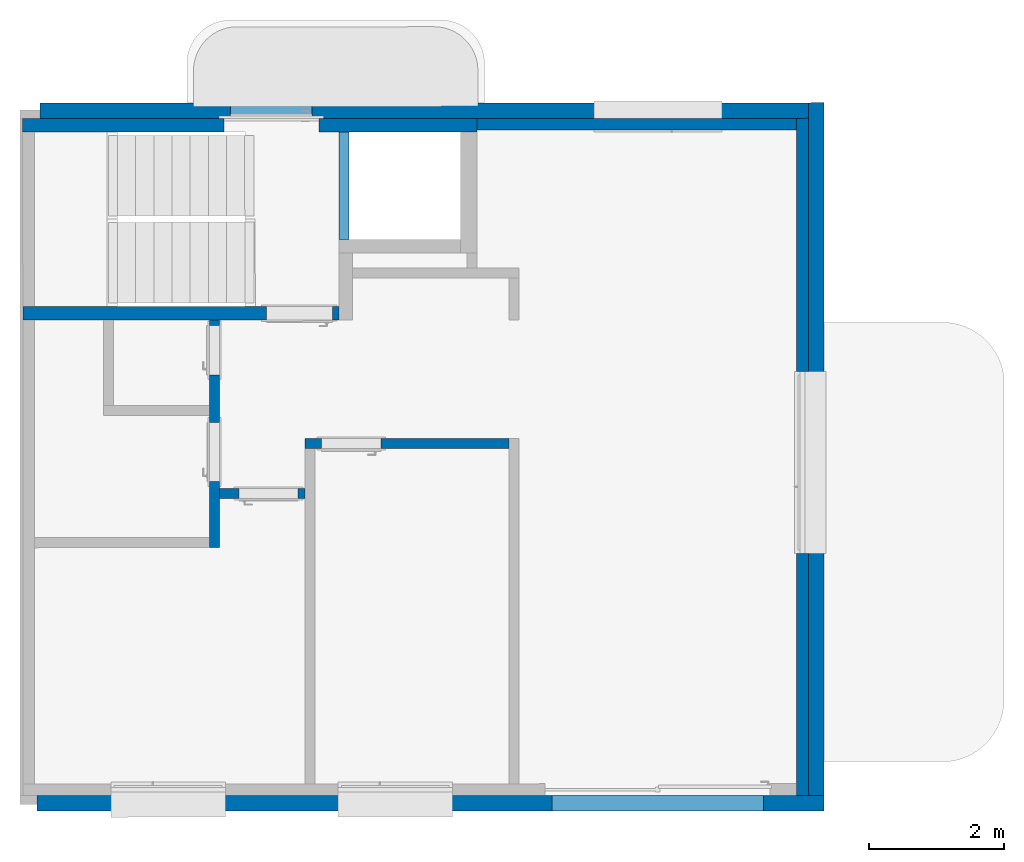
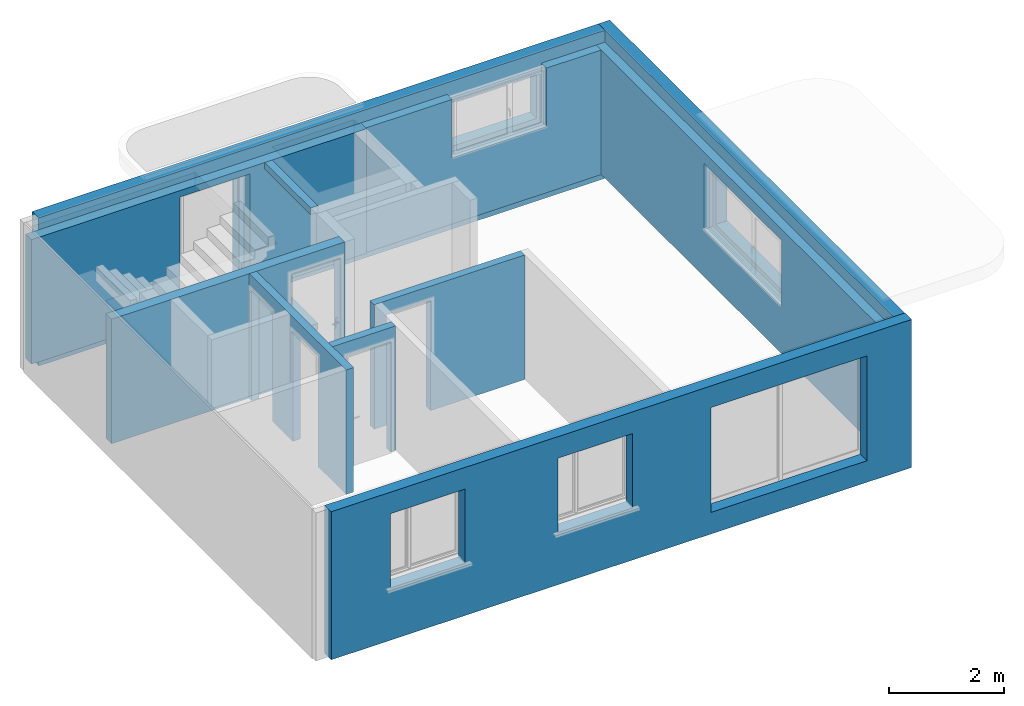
# One storey, part 2 of 9: 11 walls, 15 openings.
"""IFC2X3 building model written with IfcOpenShell, lengths in metres."""

import ifcopenshell
import ifcopenshell.guid

model = None  # the IFC model being written
_history = None  # IfcOwnerHistory: only IFC2X3 demands one
_inside = {}  # id of a spatial element -> (the spatial element, [elements in it])
_under = {}  # id of a project, library or spatial element -> (it, [spatial elements below it])
_declared = {}  # id of a project -> (the project, [libraries it declares])
_typed = {}  # id of a type object -> (the type object, [elements of that type])
_made_of = {}  # id of a material, layer set ... -> (it, [elements and type objects made of it])


def new_model(schema):
    """Start an empty IFC model of exactly this schema.

    Asked for "IFC4X3", IfcOpenShell would pick the latest addendum, in which some entities
    have other attributes; the version numbers below select the first issue.
    IFC2X3 requires an IfcOwnerHistory on every rooted entity: one is made here for all.
    """
    global model, _history
    if schema == "IFC4X3":
        model = ifcopenshell.file(schema_version=(4, 3, 0, 0))
    else:
        model = ifcopenshell.file(schema=schema)
    _inside.clear()
    _under.clear()
    _declared.clear()
    _typed.clear()
    _made_of.clear()
    _history = None
    if model.schema == "IFC2X3":
        org = make("IfcOrganization", Name="unknown")
        user = make(
            "IfcPersonAndOrganization",
            ThePerson=make("IfcPerson", FamilyName="unknown"),
            TheOrganization=org,
        )
        app = make(
            "IfcApplication",
            ApplicationDeveloper=org,
            Version="unknown",
            ApplicationFullName="unknown",
            ApplicationIdentifier="unknown",
        )
        _history = make(
            "IfcOwnerHistory",
            OwningUser=user,
            OwningApplication=app,
            ChangeAction="ADDED",
            CreationDate=0,
        )
    return model


def make(cls, **values):
    """One entity of the class cls with the attributes given. An attribute that is None is left unset."""
    return model.create_entity(
        cls, **{name: value for name, value in values.items() if value is not None}
    )


def entity(cls, *values):
    """Any entity or typed value of the class cls, its attributes in the order of the schema. None: left unset."""
    e = model.create_entity(cls)
    for i, value in enumerate(values):
        if value is not None:
            e[i] = value
    return e


def rooted(cls, **values):
    """An entity with a GlobalId (a new one), such as an element, a storey or a relation."""
    return make(cls, GlobalId=ifcopenshell.guid.new(), OwnerHistory=_history, **values)


def si_unit(unit_type, name, prefix=None):
    """IfcSIUnit, for example si_unit("LENGTHUNIT", "METRE", prefix="MILLI")."""
    return make("IfcSIUnit", UnitType=unit_type, Prefix=prefix, Name=name)


def converted_unit(unit_type, name, factor, base, dimensions=None, offset=None):
    """IfcConversionBasedUnit, such as the inch: factor (a typed value) times the base unit."""
    return make(
        "IfcConversionBasedUnit"
        if offset is None
        else "IfcConversionBasedUnitWithOffset",
        ConversionOffset=offset,
        Dimensions=None
        if dimensions is None
        else entity("IfcDimensionalExponents", *dimensions),
        UnitType=unit_type,
        Name=name,
        ConversionFactor=make(
            "IfcMeasureWithUnit", ValueComponent=factor, UnitComponent=base
        ),
    )


def derived_unit(unit_type, elements):
    """IfcDerivedUnit: a product of units, each with its exponent."""
    return make(
        "IfcDerivedUnit",
        Elements=[
            make("IfcDerivedUnitElement", Unit=unit, Exponent=power)
            for unit, power in elements
        ],
        UnitType=unit_type,
    )


def assignment(units):
    """IfcUnitAssignment: the units of a project."""
    return None if units is None else make("IfcUnitAssignment", Units=units)


def point(xyz):
    """IfcCartesianPoint."""
    return None if xyz is None else make("IfcCartesianPoint", Coordinates=xyz)


def direction(xyz):
    """IfcDirection."""
    return None if xyz is None else make("IfcDirection", DirectionRatios=xyz)


def frame(location, z_axis=None, x_axis=None):
    """IfcAxis2Placement3D, a coordinate frame: its origin and axes. An axis left out is left unset."""
    return make(
        "IfcAxis2Placement3D",
        Location=point(location),
        Axis=direction(z_axis),
        RefDirection=direction(x_axis),
    )


def origin():
    """The frame at (0, 0, 0) with its axes left unset."""
    return frame((0.0, 0.0, 0.0))


def place(relative_to, where):
    """IfcLocalPlacement: puts the frame where relative to a parent placement (None: the world)."""
    return make(
        "IfcLocalPlacement", PlacementRelTo=relative_to, RelativePlacement=where
    )


def context(
    kind, dimensions, precision=None, world=None, true_north=None, identifier=None
):
    """IfcGeometricRepresentationContext, for example the 3D "Model" context."""
    return make(
        "IfcGeometricRepresentationContext",
        ContextIdentifier=identifier,
        ContextType=kind,
        CoordinateSpaceDimension=dimensions,
        Precision=precision,
        WorldCoordinateSystem=world,
        TrueNorth=true_north,
    )


def subcontext(parent, identifier, kind, view, scale=None):
    """IfcGeometricRepresentationSubContext, for example "Body" below "Model"."""
    return make(
        "IfcGeometricRepresentationSubContext",
        ContextIdentifier=identifier,
        ContextType=kind,
        ParentContext=parent,
        TargetScale=scale,
        TargetView=view,
    )


def project(units=None, contexts=None):
    """IfcProject with its units and contexts."""
    return rooted(
        "IfcProject",
        Name="project",
        RepresentationContexts=contexts,
        UnitsInContext=assignment(units),
    )


def spatial(cls, under=None, at=None, **own):
    """A site, building, storey or space (cls), placed at a placement, below another one or the project."""
    s = rooted(cls, ObjectPlacement=at, **own)
    if under is not None:
        _under.setdefault(under.id(), (under, []))[1].append(s)
    return s


def faces_of(points, faces, orient=None, outer=None):
    """IfcFace entities. A face is a list of loops; a loop is a list of indices into points, from 0.

    orient and outer hold one flag for each loop. By default every Orientation is true, the
    first loop of a face is its IfcFaceOuterBound and the others are IfcFaceBound.
    """
    made = []
    for i, loops in enumerate(faces):
        bounds = []
        for j, loop in enumerate(loops):
            is_outer = j == 0 if outer is None else outer[i][j]
            bounds.append(
                make(
                    "IfcFaceOuterBound" if is_outer else "IfcFaceBound",
                    Bound=make("IfcPolyLoop", Polygon=[points[k] for k in loop]),
                    Orientation=True if orient is None else orient[i][j],
                )
            )
        made.append(make("IfcFace", Bounds=bounds))
    return made


def faceted_brep(points, faces, orient=None, outer=None, voids=None):
    """IfcFacetedBrep: a solid bounded by flat faces; with voids (closed shells), ...WithVoids."""
    shared = [point(p) for p in points]
    hull = make("IfcClosedShell", CfsFaces=faces_of(shared, faces, orient, outer))
    if voids is None:
        return make("IfcFacetedBrep", Outer=hull)
    return make(
        "IfcFacetedBrepWithVoids",
        Outer=hull,
        Voids=[
            make(cls, CfsFaces=faces_of(shared, fs, o, b)) for cls, fs, o, b in voids
        ],
    )


def shape(context_of_items, identifier, shape_type, items):
    """IfcShapeRepresentation: the items that make up one representation, for example the "Body"."""
    return make(
        "IfcShapeRepresentation",
        ContextOfItems=context_of_items,
        RepresentationIdentifier=identifier,
        RepresentationType=shape_type,
        Items=items,
    )


def material(Name=None, Category=None):
    """IfcMaterial."""
    return make("IfcMaterial", Name=Name, Category=Category)


def made_of(thing, what):
    """Note that an element or type object is made of a material, layer set ...; save() writes the relation."""
    if what is not None:
        _made_of.setdefault(what.id(), (what, []))[1].append(thing)
    return thing


def element(
    cls,
    number,
    at=None,
    inside=None,
    cuts=None,
    type_object=None,
    material=None,
    context=None,
    identifier="Body",
    shape_type=None,
    held_by="IfcProductDefinitionShape",
    body=None,
    shapes=None,
    **own,
):
    """One element of the class cls, such as IfcWall. Its Tag is "e" and its number.

    at: its placement. inside: the storey or other place that contains it. cuts: it is an
    opening in that element (IfcRelVoidsElement). A single representation is given by context,
    identifier, shape_type and body (its items); several are given by shapes. held_by: the class
    of the entity that holds the representations. save() writes the other relations.
    """
    e = rooted(cls, Tag="e%d" % number, ObjectPlacement=at, **own)
    if body is not None:
        shapes = [shape(context, identifier, shape_type, body)]
    if shapes is not None:
        e.Representation = make(held_by, Representations=shapes)
    if inside is not None:
        _inside.setdefault(inside.id(), (inside, []))[1].append(e)
    if cuts is not None:
        rooted(
            "IfcRelVoidsElement", RelatingBuildingElement=cuts, RelatedOpeningElement=e
        )
    if type_object is not None:
        _typed.setdefault(type_object.id(), (type_object, []))[1].append(e)
    return made_of(e, material)


def aggregate(whole, parts):
    """IfcRelAggregates: a whole, such as a stair, and the parts it consists of."""
    return rooted("IfcRelAggregates", RelatingObject=whole, RelatedObjects=parts)


def save(model, path):
    """Write the relations noted so far, then the file.

    IfcRelAggregates (storeys below a building ...), IfcRelContainedInSpatialStructure (elements
    in a storey), IfcRelDefinesByType, IfcRelAssociatesMaterial and IfcRelDeclares: one each for
    every whole, place, type object, material and project.
    """
    for whole, parts in _under.values():
        aggregate(whole, parts)
    for where, things in _inside.values():
        rooted(
            "IfcRelContainedInSpatialStructure",
            RelatedElements=things,
            RelatingStructure=where,
        )
    for kind, things in _typed.values():
        rooted("IfcRelDefinesByType", RelatedObjects=things, RelatingType=kind)
    for what, things in _made_of.values():
        rooted("IfcRelAssociatesMaterial", RelatedObjects=things, RelatingMaterial=what)
    for by, libraries in _declared.values():
        rooted("IfcRelDeclares", RelatingContext=by, RelatedDefinitions=libraries)
    model.write(path)


model = new_model("IFC2X3")

# Units and contexts
model_context = context("Model", 3, precision=1e-05, world=origin(), true_north=direction((0.772621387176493, -0.634867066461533)))
body_context = subcontext(model_context, "Body", "Model", "MODEL_VIEW")
ifc_project = project(units=[si_unit("LENGTHUNIT", "METRE"), si_unit("AREAUNIT", "SQUARE_METRE"), si_unit("VOLUMEUNIT", "CUBIC_METRE"), si_unit("MASSUNIT", "GRAM", prefix="KILO"), converted_unit("PLANEANGLEUNIT", "DEGREE", entity("IfcPlaneAngleMeasure", 0.0174532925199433), si_unit("PLANEANGLEUNIT", "RADIAN"), dimensions=[0, 0, 0, 0, 0, 0, 0]), derived_unit("THERMALTRANSMITTANCEUNIT", [(si_unit("POWERUNIT", "WATT"), 1), (si_unit("THERMODYNAMICTEMPERATUREUNIT", "KELVIN"), -1), (si_unit("LENGTHUNIT", "METRE"), -2)]), derived_unit("VOLUMETRICFLOWRATEUNIT", [(si_unit("LENGTHUNIT", "METRE"), 3), (converted_unit("TIMEUNIT", "hour", entity("IfcTimeMeasure", 3600.0), si_unit("TIMEUNIT", "SECOND"), dimensions=[0, 0, 1, 0, 0, 0, 0]), -1), (si_unit("LENGTHUNIT", "METRE"), -1)])], contexts=[model_context])

# Site, building, storey
site_placement = place(None, origin())
site = spatial("IfcSite", under=ifc_project, at=site_placement, Name="Modelle auf dem Nullpunkt", CompositionType="ELEMENT")
building_placement = place(site_placement, origin())
building = spatial("IfcBuilding", under=site, at=building_placement, Name="I", CompositionType="ELEMENT")
storey_placement = place(building_placement, origin())
storey = spatial("IfcBuildingStorey", under=building, at=storey_placement, Name="EG", CompositionType="ELEMENT", Elevation=0.0)

# Wall, opening
ifc_material_1 = material(Name="Béton")
wall_1_placement = place(storey_placement, frame((29.3669477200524, 1.93661409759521, 435.89)))
wall_1 = element("IfcWall", 1, at=wall_1_placement, inside=storey, material=ifc_material_1, Name="Betonwand", context=body_context, shape_type="Brep", body=[
    faceted_brep([(6.74499957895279, 0.202384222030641, 0.0), (6.74507027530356, 0.00238423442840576, 0.0), (6.74507027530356, 0.00238423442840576, 2.65), (6.74499957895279, 0.202384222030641, 2.65), (7.06963507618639e-05, 0.0, 0.0), (7.06963507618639e-05, 0.0, 2.65), (0.0, 0.199999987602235, 0.0), (0.0, 0.199999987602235, 2.65)], [[[0, 1, 2, 3]], [[1, 4, 5, 2]], [[4, 6, 7, 5]], [[6, 0, 3, 7]], [[3, 2, 5, 7]], [[0, 6, 4, 1]]], orient=[[False], [False], [False], [False], [False], [False]]),
])
opening_1_placement = place(wall_1_placement, frame((2.98499981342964, 0.00105514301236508, 0.0)))
element("IfcOpeningElement", 2, at=opening_1_placement, cuts=wall_1, ObjectType="Opening", context=body_context, shape_type="Brep", body=[
    faceted_brep([(1.40999991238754, 0.200498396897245, 0.0), (1.40999991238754, 0.200498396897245, 2.51), (0.0, 0.199999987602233, 2.51), (0.0, 0.199999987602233, 0.0), (1.41007060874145, 0.000498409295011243, 0.0), (7.06963539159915e-05, 0.0, 0.0), (7.06963539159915e-05, 0.0, 2.51), (1.41007060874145, 0.000498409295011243, 2.51)], [[[0, 1, 2, 3]], [[4, 5, 6, 7]], [[3, 5, 4, 0]], [[2, 6, 5, 3]], [[1, 7, 6, 2]], [[0, 4, 7, 1]]], orient=[[False], [False], [False], [False], [False], [False]]),
])

ifc_material_2 = material(Name="Isolation périphérique")
wall_2_placement = place(storey_placement, frame((41.0268656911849, -7.90926369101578, 435.64)))
wall_2 = element("IfcWall", 3, at=wall_2_placement, inside=storey, material=ifc_material_2, context=body_context, shape_type="Brep", body=[
    faceted_brep([(0.233633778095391, 8.13008027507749e-05, 0.0), (0.00363379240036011, 0.0, 0.0), (0.00363379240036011, 0.0, 3.15), (0.233633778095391, 8.13008027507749e-05, 3.15), (0.0, 10.2799993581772, 0.0), (0.0, 10.2799993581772, 3.15), (0.229999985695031, 10.28008065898, 0.0), (0.229999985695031, 10.28008065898, 3.15)], [[[0, 1, 2, 3]], [[1, 4, 5, 2]], [[4, 6, 7, 5]], [[6, 0, 3, 7]], [[3, 2, 5, 7]], [[0, 6, 4, 1]]], orient=[[False], [False], [False], [False], [False], [False]]),
])
opening_2_placement = place(wall_2_placement, frame((0.00144574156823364, 3.6899997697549, 1.36)))
element("IfcOpeningElement", 4, at=opening_2_placement, cuts=wall_2, ObjectType="Opening", context=body_context, shape_type="Brep", body=[
    faceted_brep([(0.230883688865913, 8.13007354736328e-05, 0.0), (0.230883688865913, 8.13007354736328e-05, 1.2), (0.229999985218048, 2.5000811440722, 1.2), (0.229999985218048, 2.5000811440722, 0.0), (0.000883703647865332, 0.0, 0.0), (0.0, 2.49999984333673, 0.0), (0.0, 2.49999984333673, 1.2), (0.000883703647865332, 0.0, 1.2)], [[[0, 1, 2, 3]], [[4, 5, 6, 7]], [[3, 5, 4, 0]], [[2, 6, 5, 3]], [[1, 7, 6, 2]], [[0, 4, 7, 1]]], orient=[[False], [False], [False], [False], [False], [False]]),
])

ifc_material_3 = material(Name="Béton")
wall_3_placement = place(storey_placement, frame((34.0620181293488, 0.338273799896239, 435.89)))
wall_3 = element("IfcWall", 5, at=wall_3_placement, inside=storey, material=ifc_material_3, Name="Betonwand", context=body_context, shape_type="Brep", body=[
    faceted_brep([(0.0, 1.5999998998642, 0.0), (0.1499999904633, 1.60005292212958, 0.0), (0.1499999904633, 1.60005292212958, 2.65), (0.0, 1.5999998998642, 2.65), (0.150565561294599, 5.30222653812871e-05, 0.0), (0.150565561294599, 5.30222653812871e-05, 2.65), (0.000565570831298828, 0.0, 0.0), (0.000565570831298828, 0.0, 2.65)], [[[0, 1, 2, 3]], [[1, 4, 5, 2]], [[4, 6, 7, 5]], [[6, 0, 3, 7]], [[3, 2, 5, 7]], [[0, 6, 4, 1]]], orient=[[False], [False], [False], [False], [False], [False]]),
])
opening_3_placement = place(wall_3_placement, frame((0.0, 0.0, 0.145)))
element("IfcOpeningElement", 6, at=opening_3_placement, cuts=wall_3, ObjectType="Opening", context=body_context, shape_type="Brep", body=[
    faceted_brep([(0.15056556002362, 5.30221462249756e-05, 0.0), (0.15056556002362, 5.30221462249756e-05, 2.365), (0.149999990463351, 1.60005292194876, 2.365), (0.149999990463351, 1.60005292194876, 0.0), (0.000565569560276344, 0.0, 0.0), (0.0, 1.59999989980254, 0.0), (0.0, 1.59999989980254, 2.365), (0.000565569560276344, 0.0, 2.365)], [[[0, 1, 2, 3]], [[4, 5, 6, 7]], [[3, 5, 4, 0]], [[2, 6, 5, 3]], [[1, 7, 6, 2]], [[0, 4, 7, 1]]], orient=[[False], [False], [False], [False], [False], [False]]),
])

ifc_material_4 = material(Name="Béton")
wall_4_placement = place(storey_placement, frame((40.8469470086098, -7.90932731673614, 435.89)))
wall_4 = element("IfcWall", 7, at=wall_4_placement, inside=storey, material=ifc_material_4, Name="Betonwand", context=body_context, shape_type="Brep", body=[
    faceted_brep([(0.183552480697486, 6.36267164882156e-05, 0.0), (0.00355249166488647, 0.0, 0.0), (0.00355249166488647, 0.0, 2.65), (0.183552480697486, 6.36267164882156e-05, 2.65), (0.0, 10.0499993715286, 0.0), (0.0, 10.0499993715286, 2.65), (0.1799999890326, 10.0500629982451, 0.0), (0.1799999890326, 10.0500629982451, 2.65)], [[[0, 1, 2, 3]], [[1, 4, 5, 2]], [[4, 6, 7, 5]], [[6, 0, 3, 7]], [[3, 2, 5, 7]], [[0, 6, 4, 1]]], orient=[[False], [False], [False], [False], [False], [False]]),
])
opening_4_placement = place(wall_4_placement, frame((0.00132909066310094, 3.58999977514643, 1.01)))
element("IfcOpeningElement", 8, at=opening_4_placement, cuts=wall_4, ObjectType="Opening", context=body_context, shape_type="Brep", body=[
    faceted_brep([(0.180954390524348, 6.3626766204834e-05, 0.0), (0.180954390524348, 6.3626766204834e-05, 1.4), (0.179999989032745, 2.70006345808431, 1.4), (0.179999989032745, 2.70006345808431, 0.0), (0.000954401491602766, 0.0, 0.0), (0.0, 2.69999983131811, 0.0), (0.0, 2.69999983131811, 1.4), (0.000954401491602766, 0.0, 1.4)], [[[0, 1, 2, 3]], [[4, 5, 6, 7]], [[3, 5, 4, 0]], [[2, 6, 5, 3]], [[1, 7, 6, 2]], [[0, 4, 7, 1]]], orient=[[False], [False], [False], [False], [False], [False]]),
])

ifc_material_5 = material(Name="Brique")
wall_5_placement = place(storey_placement, frame((36.1119473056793, 1.96399833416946, 435.89)))
wall_5 = element("IfcWall", 9, at=wall_5_placement, inside=storey, material=ifc_material_5, context=body_context, shape_type="Brep", body=[
    faceted_brep([(4.73499970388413, 0.176673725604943, 0.0), (4.73506156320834, 0.00167373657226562, 0.0), (4.73506156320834, 0.00167373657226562, 2.65), (4.73499970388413, 0.176673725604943, 2.65), (6.18593242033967e-05, 0.0, 0.0), (6.18593242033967e-05, 0.0, 2.65), (0.0, 0.174999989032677, 0.0), (0.0, 0.174999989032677, 2.65)], [[[0, 1, 2, 3]], [[1, 4, 5, 2]], [[4, 6, 7, 5]], [[6, 0, 3, 7]], [[3, 2, 5, 7]], [[0, 6, 4, 1]]], orient=[[False], [False], [False], [False], [False], [False]]),
])
opening_5_placement = place(wall_5_placement, frame((1.73499989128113, 0.000613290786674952, 1.4)))
element("IfcOpeningElement", 10, at=opening_5_placement, cuts=wall_5, ObjectType="Opening", context=body_context, shape_type="Brep", body=[
    faceted_brep([(1.90006174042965, 0.000671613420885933, 0.0), (6.1859130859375e-05, 0.0, 0.0), (6.1859130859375e-05, 0.0, 1.25), (1.90006174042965, 0.000671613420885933, 1.25), (1.89999988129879, 0.175671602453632, 0.0), (1.89999988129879, 0.175671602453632, 1.25), (0.0, 0.174999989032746, 1.25), (0.0, 0.174999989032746, 0.0)], [[[0, 1, 2, 3]], [[4, 5, 6, 7]], [[1, 0, 4, 7]], [[2, 1, 7, 6]], [[3, 2, 6, 5]], [[0, 3, 5, 4]]], orient=[[False], [False], [False], [False], [False], [False]]),
])

# Wall, openings
ifc_material_6 = material(Name="Isolation périphérique")
wall_6_placement = place(storey_placement, frame((29.6268664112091, 2.13670599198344, 435.64)))
wall_6 = element("IfcWall", 11, at=wall_6_placement, inside=storey, material=ifc_material_6, context=body_context, shape_type="Brep", body=[
    faceted_brep([(11.3999992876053, 0.234029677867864, 0.0), (11.4000805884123, 0.00402969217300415, 0.0), (11.4000805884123, 0.00402969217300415, 3.15), (11.3999992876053, 0.234029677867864, 3.15), (8.13008070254e-05, 0.0, 0.0), (8.13008070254e-05, 0.0, 3.15), (0.0, 0.22999998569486, 0.0), (0.0, 0.22999998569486, 3.15)], [[[0, 1, 2, 3]], [[1, 4, 5, 2]], [[4, 6, 7, 5]], [[6, 0, 3, 7]], [[3, 2, 5, 7]], [[0, 6, 4, 1]]], orient=[[False], [False], [False], [False], [False], [False]]),
])
opening_6_placement = place(wall_6_placement, frame((8.31999948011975, 0.00294096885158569, 1.76)))
element("IfcOpeningElement", 12, at=opening_6_placement, cuts=wall_6, ObjectType="Opening", context=body_context, shape_type="Brep", body=[
    faceted_brep([(1.69999989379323, 0.230600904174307, 0.0), (1.69999989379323, 0.230600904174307, 0.93), (0.0, 0.229999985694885, 0.93), (0.0, 0.229999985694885, 0.0), (1.7000811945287, 0.000600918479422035, 0.0), (8.13007354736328e-05, 0.0, 0.0), (8.13007354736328e-05, 0.0, 0.93), (1.7000811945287, 0.000600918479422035, 0.93)], [[[0, 1, 2, 3]], [[4, 5, 6, 7]], [[3, 5, 4, 0]], [[2, 6, 5, 3]], [[1, 7, 6, 2]], [[0, 4, 7, 1]]], orient=[[False], [False], [False], [False], [False], [False]]),
])
opening_7_placement = place(wall_6_placement, frame((2.82499982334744, 0.000998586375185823, 0.46)))
element("IfcOpeningElement", 13, at=opening_7_placement, cuts=wall_6, ObjectType="Opening", context=body_context, shape_type="Brep", body=[
    faceted_brep([(1.20999992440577, 0.230427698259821, 0.0), (1.20999992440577, 0.230427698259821, 2.23), (0.0, 0.229999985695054, 2.23), (0.0, 0.229999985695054, 0.0), (1.21008122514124, 0.000427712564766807, 0.0), (8.13007354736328e-05, 0.0, 0.0), (8.13007354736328e-05, 0.0, 2.23), (1.21008122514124, 0.000427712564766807, 2.23)], [[[0, 1, 2, 3]], [[4, 5, 6, 7]], [[3, 5, 4, 0]], [[2, 6, 5, 3]], [[1, 7, 6, 2]], [[0, 4, 7, 1]]], orient=[[False], [False], [False], [False], [False], [False]]),
])

# Wall, opening
ifc_material_7 = material(Name="Brique")
wall_7_placement = place(storey_placement, frame((32.288888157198, -3.50235339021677, 435.89)))
wall_7 = element("IfcWall", 14, at=wall_7_placement, inside=storey, material=ifc_material_7, context=body_context, shape_type="Brep", body=[
    faceted_brep([(5.30222471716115e-05, 0.0, 0.0), (0.0, 0.149999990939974, 0.0), (0.0, 0.149999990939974, 2.65), (5.30222471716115e-05, 0.0, 2.65), (1.26499992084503, 0.150447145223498, 0.0), (1.26499992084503, 0.150447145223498, 2.65), (1.2650529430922, 0.00044715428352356, 0.0), (1.2650529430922, 0.00044715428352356, 2.65)], [[[0, 1, 2, 3]], [[1, 4, 5, 2]], [[4, 6, 7, 5]], [[6, 0, 3, 7]], [[3, 2, 5, 7]], [[0, 6, 4, 1]]], orient=[[False], [False], [False], [False], [False], [False]]),
])
opening_8_placement = place(wall_7_placement, frame((0.28499998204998, 0.000100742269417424, 0.0)))
element("IfcOpeningElement", 15, at=opening_8_placement, cuts=wall_7, ObjectType="Opening", context=body_context, shape_type="Brep", body=[
    faceted_brep([(0.880052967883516, 0.000311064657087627, 0.0), (5.30223846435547e-05, 0.0, 0.0), (5.30223846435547e-05, 0.0, 2.35), (0.880052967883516, 0.000311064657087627, 2.35), (0.879999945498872, 0.150311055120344, 0.0), (0.879999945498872, 0.150311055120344, 2.35), (0.0, 0.149999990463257, 2.35), (0.0, 0.149999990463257, 0.0)], [[[0, 1, 2, 3]], [[4, 5, 6, 7]], [[1, 0, 4, 7]], [[2, 1, 7, 6]], [[3, 2, 6, 5]], [[0, 3, 5, 4]]], orient=[[False], [False], [False], [False], [False], [False]]),
])

ifc_material_8 = material(Name="Brique")
wall_8_placement = place(storey_placement, frame((33.5536264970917, -2.76190628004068, 435.89)))
wall_8 = element("IfcWall", 16, at=wall_8_placement, inside=storey, material=ifc_material_8, context=body_context, shape_type="Brep", body=[
    faceted_brep([(5.30222618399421e-05, 0.0, 0.0), (0.0, 0.149999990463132, 0.0), (0.0, 0.149999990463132, 2.65), (5.30222618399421e-05, 0.0, 2.65), (3.02999981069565, 0.151071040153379, 0.0), (3.02999981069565, 0.151071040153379, 2.65), (3.03005283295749, 0.00107104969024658, 0.0), (3.03005283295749, 0.00107104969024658, 2.65)], [[[0, 1, 2, 3]], [[1, 4, 5, 2]], [[4, 6, 7, 5]], [[6, 0, 3, 7]], [[3, 2, 5, 7]], [[0, 6, 4, 1]]], orient=[[False], [False], [False], [False], [False], [False]]),
])
opening_9_placement = place(wall_8_placement, frame((0.24999998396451, 8.83704363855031e-05, 0.0)))
element("IfcOpeningElement", 17, at=opening_9_placement, cuts=wall_8, ObjectType="Opening", context=body_context, shape_type="Brep", body=[
    faceted_brep([(0.880052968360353, 0.000311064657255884, 0.0), (5.30223846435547e-05, 0.0, 0.0), (5.30223846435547e-05, 0.0, 2.35), (0.880052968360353, 0.000311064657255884, 2.35), (0.879999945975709, 0.150311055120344, 0.0), (0.879999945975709, 0.150311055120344, 2.35), (0.0, 0.149999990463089, 2.35), (0.0, 0.149999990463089, 0.0)], [[[0, 1, 2, 3]], [[4, 5, 6, 7]], [[1, 0, 4, 7]], [[2, 1, 7, 6]], [[3, 2, 6, 5]], [[0, 3, 5, 4]]], orient=[[False], [False], [False], [False], [False], [False]]),
])

# Wall, openings
ifc_material_9 = material(Name="Isolation périphérique")
wall_9_placement = place(storey_placement, frame((29.580500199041, -8.14331104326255, 435.64)))
wall_9 = element("IfcWall", 18, at=wall_9_placement, inside=storey, material=ifc_material_9, context=body_context, shape_type="Brep", body=[
    faceted_brep([(11.6799992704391, 0.234128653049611, 0.0), (11.6800805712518, 0.00412866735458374, 0.0), (11.6800805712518, 0.00412866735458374, 3.15), (11.6799992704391, 0.234128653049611, 3.15), (8.13008126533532e-05, 0.0, 0.0), (8.13008126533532e-05, 0.0, 3.15), (0.0, 0.229999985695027, 0.0), (0.0, 0.229999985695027, 3.15)], [[[0, 1, 2, 3]], [[1, 4, 5, 2]], [[4, 6, 7, 5]], [[6, 0, 3, 7]], [[3, 2, 5, 7]], [[0, 6, 4, 1]]], orient=[[False], [False], [False], [False], [False], [False]]),
])
opening_10_placement = place(wall_9_placement, frame((4.56499971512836, 0.00161364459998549, 1.11)))
element("IfcOpeningElement", 19, at=opening_10_placement, cuts=wall_9, ObjectType="Opening", context=body_context, shape_type="Brep", body=[
    faceted_brep([(1.50008120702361, 0.000530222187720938, 0.0), (8.13007354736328e-05, 0.0, 0.0), (8.13007354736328e-05, 0.0, 1.58), (1.50008120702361, 0.000530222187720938, 1.58), (1.49999990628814, 0.230530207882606, 0.0), (1.49999990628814, 0.230530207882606, 1.58), (0.0, 0.229999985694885, 1.58), (0.0, 0.229999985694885, 0.0)], [[[0, 1, 2, 3]], [[4, 5, 6, 7]], [[1, 0, 4, 7]], [[2, 1, 7, 6]], [[3, 2, 6, 5]], [[0, 3, 5, 4]]], orient=[[False], [False], [False], [False], [False], [False]]),
])
opening_11_placement = place(wall_9_placement, frame((1.19499992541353, 0.000422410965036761, 1.11)))
element("IfcOpeningElement", 20, at=opening_11_placement, cuts=wall_9, ObjectType="Opening", context=body_context, shape_type="Brep", body=[
    faceted_brep([(1.50008120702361, 0.000530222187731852, 0.0), (8.13007354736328e-05, 0.0, 0.0), (8.13007354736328e-05, 0.0, 1.58), (1.50008120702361, 0.000530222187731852, 1.58), (1.49999990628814, 0.230530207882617, 0.0), (1.49999990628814, 0.230530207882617, 1.58), (0.0, 0.229999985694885, 1.58), (0.0, 0.229999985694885, 0.0)], [[[0, 1, 2, 3]], [[4, 5, 6, 7]], [[1, 0, 4, 7]], [[2, 1, 7, 6]], [[3, 2, 6, 5]], [[0, 3, 5, 4]]], orient=[[False], [False], [False], [False], [False], [False]]),
])
opening_12_placement = place(wall_9_placement, frame((7.63999952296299, 0.00270060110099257, 0.46)))
element("IfcOpeningElement", 21, at=opening_12_placement, cuts=wall_9, ObjectType="Opening", context=body_context, shape_type="Brep", body=[
    faceted_brep([(3.14008110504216, 0.00110993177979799, 0.0), (8.13007354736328e-05, 0.0, 0.0), (8.13007354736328e-05, 0.0, 2.23), (3.14008110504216, 0.00110993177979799, 2.23), (3.13999980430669, 0.231109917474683, 0.0), (3.13999980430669, 0.231109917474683, 2.23), (0.0, 0.229999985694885, 2.23), (0.0, 0.229999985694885, 0.0)], [[[0, 1, 2, 3]], [[4, 5, 6, 7]], [[1, 0, 4, 7]], [[2, 1, 7, 6]], [[3, 2, 6, 5]], [[0, 3, 5, 4]]], orient=[[False], [False], [False], [False], [False], [False]]),
])

ifc_material_10 = material(Name="Brique")
wall_10_placement = place(storey_placement, frame((32.1380044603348, -4.23240637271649, 435.89)))
wall_10 = element("IfcWall", 22, at=wall_10_placement, inside=storey, material=ifc_material_10, context=body_context, shape_type="Brep", body=[
    faceted_brep([(0.15119475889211, 5.30222465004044e-05, 0.0), (0.00119476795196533, 0.0, 0.0), (0.00119476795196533, 0.0, 2.65), (0.15119475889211, 5.30222465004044e-05, 2.65), (0.0, 3.37999978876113, 0.0), (0.0, 3.37999978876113, 2.65), (0.149999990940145, 3.38005281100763, 0.0), (0.149999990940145, 3.38005281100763, 2.65)], [[[0, 1, 2, 3]], [[1, 4, 5, 2]], [[4, 6, 7, 5]], [[6, 0, 3, 7]], [[3, 2, 5, 7]], [[0, 6, 4, 1]]], orient=[[False], [False], [False], [False], [False], [False]]),
])
opening_13_placement = place(wall_10_placement, frame((3.0045986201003e-05, 2.564999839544, 0.0)))
element("IfcOpeningElement", 23, at=opening_13_placement, cuts=wall_10, ObjectType="Opening", context=body_context, shape_type="Brep", body=[
    faceted_brep([(0.000258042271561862, 0.0, 0.0), (0.0, 0.729999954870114, 0.0), (0.0, 0.729999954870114, 2.35), (0.000258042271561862, 0.0, 2.35), (0.150258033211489, 5.30223846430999e-05, 0.0), (0.150258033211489, 5.30223846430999e-05, 2.35), (0.149999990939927, 0.730052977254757, 2.35), (0.149999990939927, 0.730052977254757, 0.0)], [[[0, 1, 2, 3]], [[4, 5, 6, 7]], [[1, 0, 4, 7]], [[2, 1, 7, 6]], [[3, 2, 6, 5]], [[0, 3, 5, 4]]], orient=[[False], [False], [False], [False], [False], [False]]),
])
opening_14_placement = place(wall_10_placement, frame((0.000537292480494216, 0.979999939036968, 0.0)))
element("IfcOpeningElement", 24, at=opening_14_placement, cuts=wall_10, ObjectType="Opening", context=body_context, shape_type="Brep", body=[
    faceted_brep([(0.000311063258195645, 0.0, 0.0), (0.0, 0.879999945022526, 0.0), (0.0, 0.879999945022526, 2.35), (0.000311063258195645, 0.0, 2.35), (0.150311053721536, 5.30221462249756e-05, 0.0), (0.150311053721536, 5.30221462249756e-05, 2.35), (0.149999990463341, 0.880052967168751, 2.35), (0.149999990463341, 0.880052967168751, 0.0)], [[[0, 1, 2, 3]], [[4, 5, 6, 7]], [[1, 0, 4, 7]], [[2, 1, 7, 6]], [[3, 2, 6, 5]], [[0, 3, 5, 4]]], orient=[[False], [False], [False], [False], [False], [False]]),
])

# Wall, opening
ifc_material_11 = material(Name="Béton")
wall_11_placement = place(storey_placement, frame((29.3679339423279, -0.853385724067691, 435.89)))
wall_11 = element("IfcWall", 25, at=wall_11_placement, inside=storey, material=ifc_material_11, Name="Betonwand", context=body_context, shape_type="Brep", body=[
    faceted_brep([(4.69499970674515, 0.201659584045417, 0.0), (4.69507040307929, 0.00165959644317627, 0.0), (4.69507040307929, 0.00165959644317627, 2.65), (4.69499970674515, 0.201659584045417, 2.65), (7.06963341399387e-05, 0.0, 0.0), (7.06963341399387e-05, 0.0, 2.65), (0.0, 0.199999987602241, 0.0), (0.0, 0.199999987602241, 2.65)], [[[0, 1, 2, 3]], [[1, 4, 5, 2]], [[4, 6, 7, 5]], [[6, 0, 3, 7]], [[3, 2, 5, 7]], [[0, 6, 4, 1]]], orient=[[False], [False], [False], [False], [False], [False]]),
])
opening_15_placement = place(wall_11_placement, frame((3.61499977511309, 0.00127783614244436, 0.0)))
element("IfcOpeningElement", 26, at=opening_15_placement, cuts=wall_11, ObjectType="Opening", context=body_context, shape_type="Brep", body=[
    faceted_brep([(0.979999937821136, 0.200346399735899, 0.0), (0.979999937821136, 0.200346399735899, 2.35), (0.0, 0.199999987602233, 2.35), (0.0, 0.199999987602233, 0.0), (0.980070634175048, 0.000346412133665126, 0.0), (7.06963539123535e-05, 0.0, 0.0), (7.06963539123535e-05, 0.0, 2.35), (0.980070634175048, 0.000346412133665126, 2.35)], [[[0, 1, 2, 3]], [[4, 5, 6, 7]], [[3, 5, 4, 0]], [[2, 6, 5, 3]], [[1, 7, 6, 2]], [[0, 4, 7, 1]]], orient=[[False], [False], [False], [False], [False], [False]]),
])

save(model, "model.ifc")
